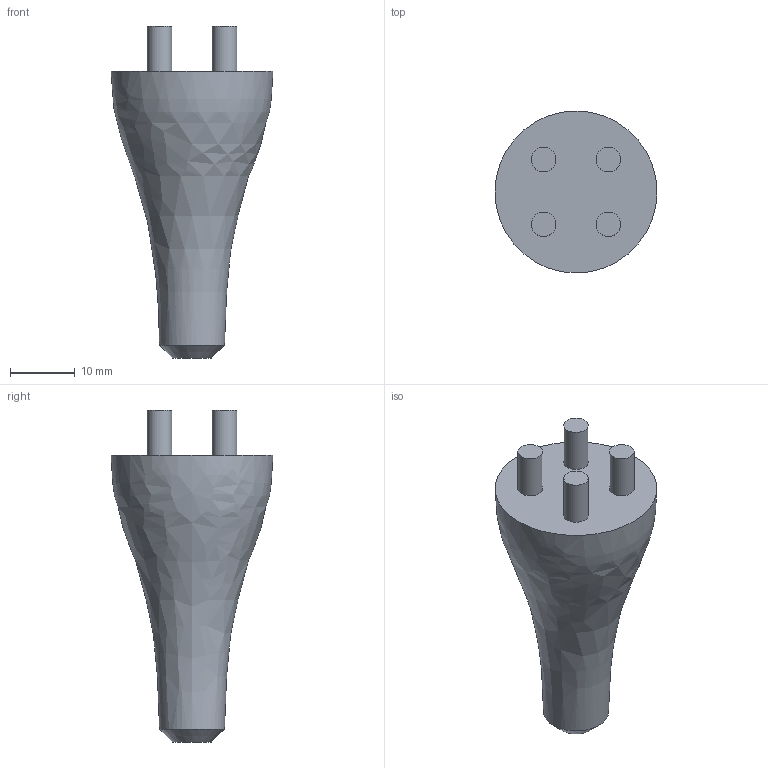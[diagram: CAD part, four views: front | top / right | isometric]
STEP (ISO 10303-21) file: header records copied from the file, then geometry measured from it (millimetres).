
FILE_DESCRIPTION(('STEP AP242 Edition 2','STEP AP242 Edition 2''CAx-IF Rec.Pracs.---Representation and Presentation of Product Manufacturing Information (PMI)---4.0---2014-10-13','STEP AP242 Edition 2''CAx-IF Rec.Pracs.---Representation and Presentation of Product Manufacturing Information (PMI)---4.0---2014-10-13''CAx-IF Rec.Pracs.---3D Tessellated Geometry---0.4---2014-09-14','STEP AP242 Edition 2''CAx-IF Rec.Pracs.---Representation and Presentation of Product Manufacturing Information (PMI)---4.0---2014-10-13''CAx-IF Rec.Pracs.---3D Tessellated Geometry---0.4---2014-09-14''2;1','STEP AP242 Edition 2''CAx-IF Rec.Pracs.---Representation and Presentation of Product Manufacturing Information (PMI)---4.0---2014-10-13''CAx-IF Rec.Pracs.---3D Tessellated Geometry---0.4---2014-09-14''2;1''CAx-IF Rec.Pracs.---User Defined Attributes---1.5---2016-08-15'),'2;1');
FILE_NAME('/vol/tmp/translate-17459121042689540201/Draw Bot V3 - Support Leg - R.step','2026-03-21T23:30:55',(''),(''),'ST-DEVELOPER v20','ONSHAPE BY PTC INC, 1.212',' ');
FILE_SCHEMA(('AP242_MANAGED_MODEL_BASED_3D_ENGINEERING_MIM_LF { 1 0 10303 442 3 1 4 }'));
Length unit declared in the file: millimetre
Products named in the file (1): Support Leg - R
Bounding box: 25 x 25 x 51.25 mm (x, y, z)
Volume: 10177 mm3; surface area: 3138.1 mm2
Topology: 1 solids, 1 shells, 12 faces, 19 edges, 13 vertices
Faces by surface type: plane 6, cylinder 4, bspline 1, cone 1
Full cylindrical faces by diameter (mm): 3.8 x4
Entity records: 335 total; most frequent: CARTESIAN_POINT 120, DIRECTION 44, ORIENTED_EDGE 22, EDGE_LOOP 22, FACE_BOUND 22, AXIS2_PLACEMENT_3D 22, ADVANCED_FACE 12, EDGE_CURVE 11
